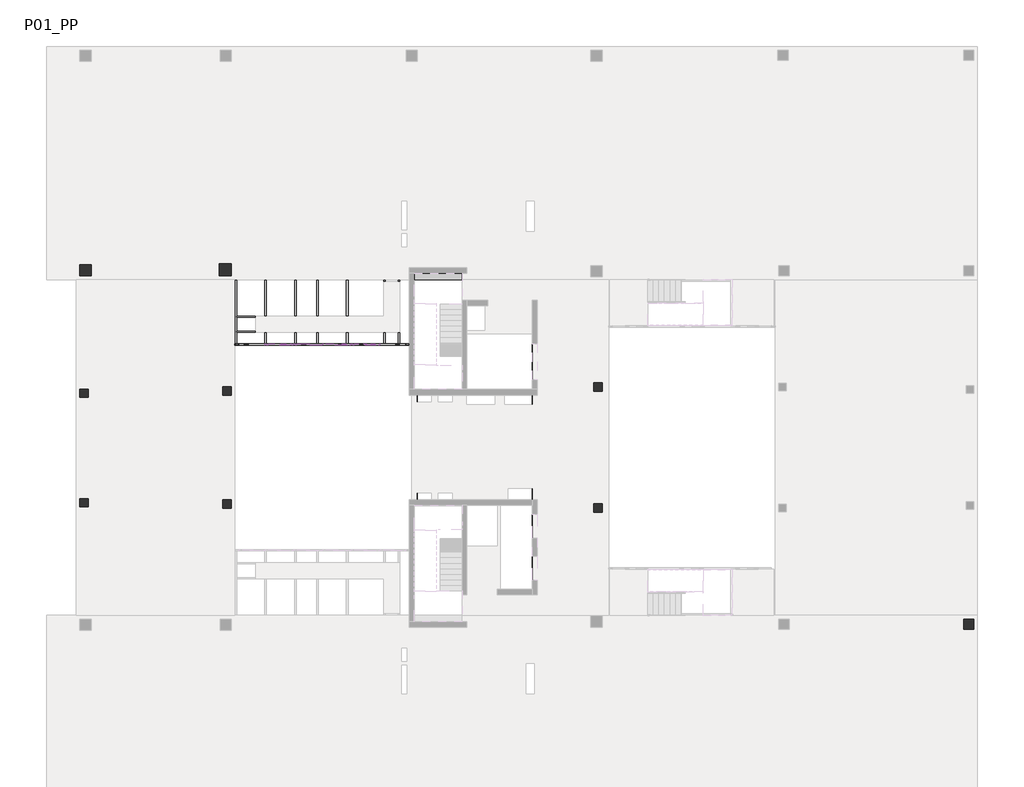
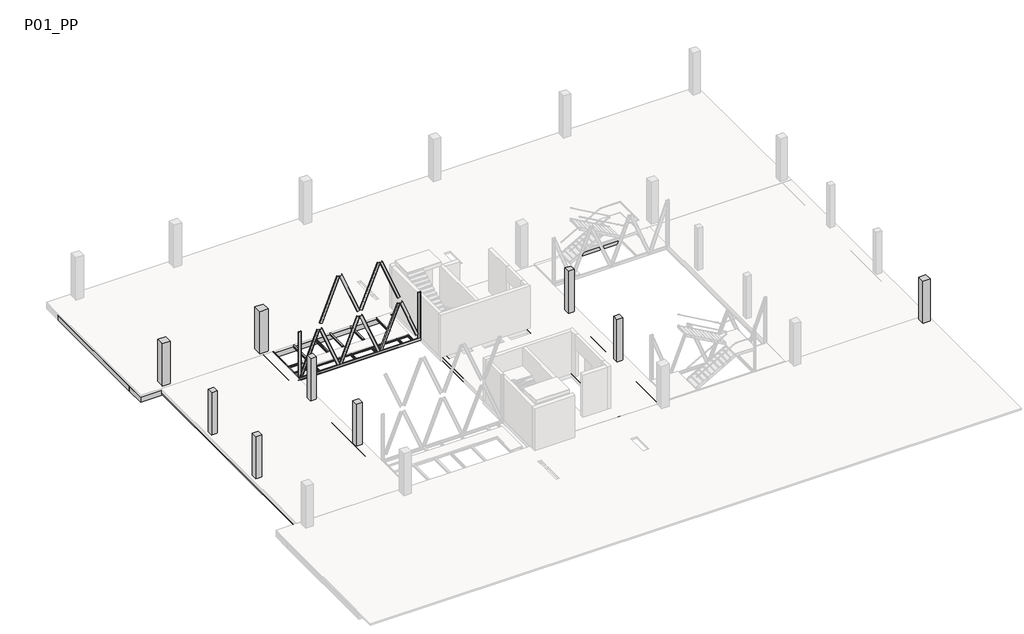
# One storey, part 4 of 8: 37 beams, 11 columns.
"""IFC4 building model written with IfcOpenShell, lengths in millimetres."""

from ifc_helpers import new_model, si_unit, frame, origin, place, context, project, spatial, polyline, circle_curve, outline, extrude, faceted_brep, transform, mapped, element, save
from ifc_brep_helpers import plane_surface, revolved_surface, advanced_brep
from components import ub_universal_beams_ipe_160x82_a4b44378, ub_universal_beams_ipe_160x82_3ea767f5, upn120x55_8ca40f5d, upn120x55_f8c29ef0, upn120x55_6f2391d9, upn120x55_f3862d68, upn120x55_dbb17e30, upn200x75_22e62ea1, upn200x75_5ddb06b6, upn200x75_15f8b11e, upn200x75_ab35ba71, upn200x75_df23aae5, upn200x75_7b6a578c, upn200x75_922ad74a, upn_200x75_fcc0ec56

model = new_model("IFC4")

# Units and contexts
model_context = context("Model", 3, world=origin())
ifc_project = project(units=[si_unit("LENGTHUNIT", "METRE", prefix="MILLI")], contexts=[model_context])

# Site, building, storey
site = spatial("IfcSite", under=ifc_project)
building = spatial("IfcBuilding", under=site)
storey = spatial("IfcBuildingStorey", under=building, Name="P01_PP", Elevation=11160.0)

# Beams
placement = place(None, origin())
element("IfcBeam", 1, ObjectType="M_Concrete-Rectangular Beam : 1500 x 550mm", at=placement, inside=storey, context=model_context, shape_type="AdvancedBrep", body=[
    advanced_brep(
    [(-13390.3216429, 13539.4134441, 11160.0), (-10790.2146087, 13539.4134441, 11160.0), (-10790.2146087, 13864.8960677, 11160.0), (-13390.3216429, 13864.8960677, 11160.0), (15458.7687297, 15039.4134441, 10610.0), (14183.7291255, 15039.4134441, 10610.0), (13783.7291255, 15039.4134441, 10610.0), (12517.0624618, 15039.4134441, 10610.0), (12117.0624618, 15039.4134441, 10610.0), (10850.3957976, 15039.4134441, 10610.0), (10450.3957976, 15039.4134441, 10610.0), (9183.7291339, 15039.4134441, 10610.0), (8783.7291339, 15039.4134441, 10610.0), (7517.0624701, 15039.4134441, 10610.0), (7117.0624701, 15039.4134441, 10610.0), (5850.3958055, 15039.4134441, 10610.0), (5450.3958055, 15039.4134441, 10610.0), (4183.7291418, 15039.4134441, 10610.0), (3783.7291418, 15039.4134441, 10610.0), (2517.0624776, 15039.4134441, 10610.0), (2117.0624776, 15039.4134441, 10610.0), (850.3958139, 15039.4134441, 10610.0), (450.3958139, 15039.4134441, 10610.0), (-816.2708502, 15039.4134441, 10610.0), (-1216.2708502, 15039.4134441, 10610.0), (-2482.9375136, 15039.4134441, 10610.0), (-2882.9375136, 15039.4134441, 10610.0), (-4149.6041777, 15039.4134441, 10610.0), (-4549.6041777, 15039.4134441, 10610.0), (-5816.2708415, 15039.4134441, 10610.0), (-6216.2708415, 15039.4134441, 10610.0), (-7482.9375051, 15039.4134441, 10610.0), (-7882.9375051, 15039.4134441, 10610.0), (-9149.6041702, 15039.4134441, 10610.0), (-9549.6041702, 15039.4134441, 10610.0), (-10816.2708336, 15039.4134441, 10610.0), (-11216.2708336, 15039.4134441, 10610.0), (-12482.9374977, 15039.4134441, 10610.0), (-12882.9374977, 15039.4134441, 10610.0), (-14149.604161, 15039.4134441, 10610.0), (-14549.604161, 15039.4134441, 10610.0), (-15816.2708252, 15039.4134441, 10610.0), (-16216.2708252, 15039.4134441, 10610.0), (-17482.9374898, 15039.4134441, 10610.0), (-17882.9374898, 15039.4134441, 10610.0), (-19149.6041539, 15039.4134441, 10610.0), (-19549.6041539, 15039.4134441, 10610.0), (-20816.2708168, 15039.4134441, 10610.0), (-21216.2708168, 15039.4134441, 10610.0), (-22482.9374805, 15039.4134441, 10610.0), (-22882.9374805, 15039.4134441, 10610.0), (-24149.6041453, 15039.4134441, 10610.0), (-24549.6041453, 15039.4134441, 10610.0), (-25816.2708089, 15039.4134441, 10610.0), (-26216.2708089, 15039.4134441, 10610.0), (-27482.9374731, 15039.4134441, 10610.0), (-27882.9374731, 15039.4134441, 10610.0), (-29149.6041367, 15039.4134441, 10610.0), (-29549.6041367, 15039.4134441, 10610.0), (-30816.2708024, 15039.4134441, 10610.0), (-31216.2708024, 15039.4134441, 10610.0), (-32490.2931093, 15039.4134441, 10610.0), (-33190.2931093, 15039.4134441, 10610.0), (-33190.2931093, 15039.4134441, 11010.0), (-32490.2931093, 15039.4134441, 11010.0), (-31216.2708024, 15039.4134441, 11010.0), (-30816.2708024, 15039.4134441, 11010.0), (-29549.6041367, 15039.4134441, 11010.0), (-29149.6041367, 15039.4134441, 11010.0), (-27882.9374731, 15039.4134441, 11010.0), (-27482.9374731, 15039.4134441, 11010.0), (-26216.2708089, 15039.4134441, 11010.0), (-25816.2708089, 15039.4134441, 11010.0), (-24549.6041453, 15039.4134441, 11010.0), (-24149.6041453, 15039.4134441, 11010.0), (-22882.9374805, 15039.4134441, 11010.0), (-22482.9374805, 15039.4134441, 11010.0), (-21216.2708168, 15039.4134441, 11010.0), (-20816.2708168, 15039.4134441, 11010.0), (-19549.6041539, 15039.4134441, 11010.0), (-19149.6041539, 15039.4134441, 11010.0), (-17882.9374898, 15039.4134441, 11010.0), (-17482.9374898, 15039.4134441, 11010.0), (-16216.2708252, 15039.4134441, 11010.0), (-15816.2708252, 15039.4134441, 11010.0), (-14549.604161, 15039.4134441, 11010.0), (-14149.604161, 15039.4134441, 11010.0), (-12882.9374977, 15039.4134441, 11010.0), (-12482.9374977, 15039.4134441, 11010.0), (-11216.2708336, 15039.4134441, 11010.0), (-10816.2708336, 15039.4134441, 11010.0), (-9549.6041702, 15039.4134441, 11010.0), (-9149.6041702, 15039.4134441, 11010.0), (-7882.9375051, 15039.4134441, 11010.0), (-7482.9375051, 15039.4134441, 11010.0), (-6216.2708415, 15039.4134441, 11010.0), (-5816.2708415, 15039.4134441, 11010.0), (-4549.6041777, 15039.4134441, 11010.0), (-4149.6041777, 15039.4134441, 11010.0), (-2882.9375136, 15039.4134441, 11010.0), (-2482.9375136, 15039.4134441, 11010.0), (-1216.2708502, 15039.4134441, 11010.0), (-816.2708502, 15039.4134441, 11010.0), (450.3958139, 15039.4134441, 11010.0), (850.3958139, 15039.4134441, 11010.0), (2117.0624776, 15039.4134441, 11010.0), (2517.0624776, 15039.4134441, 11010.0), (3783.7291418, 15039.4134441, 11010.0), (4183.7291418, 15039.4134441, 11010.0), (5450.3958055, 15039.4134441, 11010.0), (5850.3958055, 15039.4134441, 11010.0), (7117.0624701, 15039.4134441, 11010.0), (7517.0624701, 15039.4134441, 11010.0), (8783.7291339, 15039.4134441, 11010.0), (9183.7291339, 15039.4134441, 11010.0), (10450.3957976, 15039.4134441, 11010.0), (10850.3957976, 15039.4134441, 11010.0), (12117.0624618, 15039.4134441, 11010.0), (12517.0624618, 15039.4134441, 11010.0), (13783.7291255, 15039.4134441, 11010.0), (14183.7291255, 15039.4134441, 11010.0), (15458.7687297, 15039.4134441, 11010.0), (15458.7687297, 13539.4134441, 10610.0), (-13390.3216429, 13539.4134441, 10610.0), (-13390.3216429, 13864.8960687, 10610.0), (-10540.3248355, 13864.8960687, 10610.0), (-10540.3248355, 14164.8960687, 10610.0), (-13640.3216429, 14164.8960687, 10610.0), (-13640.3216429, 13539.4134441, 10610.0), (-33190.2931093, 13539.4134441, 10610.0), (-23891.1584575, 14389.4137827, 10610.0), (-23891.1584617, 13739.4137827, 10610.0), (-23241.1584617, 13739.4137784, 10610.0), (-23241.1584575, 14389.4137784, 10610.0), (-30741.1998829, 14389.4137882, 10610.0), (-31391.1998829, 14389.4137882, 10610.0), (-31391.199883, 13739.4137882, 10610.0), (-30741.199883, 13739.4137882, 10610.0), (-3566.6084988, 13639.4139752, 10610.0), (-3566.6084988, 14339.4139752, 10610.0), (6859.7220908, 13739.8778721, 10610.0), (6859.7220936, 14339.8778721, 10610.0), (6259.7220936, 14339.8778748, 10610.0), (6259.7220908, 13739.8778748, 10610.0), (-13640.3216429, 13539.4134441, 10860.0), (-13390.3216429, 13539.4134441, 10860.0), (15458.7687297, 13539.4134441, 11010.0), (-10790.2146087, 13539.4134441, 11010.0), (-13390.3216429, 13539.4134441, 11010.0), (-33190.2931093, 13539.4134441, 11010.0), (-23891.1584575, 14389.4137827, 10860.0), (-23891.1584617, 13739.4137827, 10860.0), (-23241.1584575, 14389.4137784, 10860.0), (-23241.1584617, 13739.4137784, 10860.0), (-30741.1998829, 14389.4137882, 10860.0), (-31391.1998829, 14389.4137882, 10860.0), (-30741.199883, 13739.4137882, 10860.0), (-31391.199883, 13739.4137882, 10860.0), (-3566.6084988, 13639.4139752, 10860.0), (-3566.6084988, 14339.4139752, 10860.0), (6859.7220908, 13739.8778721, 10860.0), (6859.7220936, 14339.8778721, 10860.0), (6259.7220908, 13739.8778748, 10860.0), (6259.7220936, 14339.8778748, 10860.0), (-10540.3248355, 14164.8960687, 10860.0), (-13640.3216429, 14164.8960687, 10860.0), (-10540.3248355, 13864.8960687, 10860.0), (-13390.3216429, 13864.8960687, 10860.0), (-13640.3216429, 13864.8960687, 10860.0), (-10790.2146087, 13864.8960677, 11010.0), (-13390.3216429, 13864.8960677, 11010.0)],
    [
        (0, 1),
        (1, 2),
        (2, 3),
        (3, 0),
        (4, 5),
        (5, 6),
        (6, 7),
        (7, 8),
        (8, 9),
        (9, 10),
        (10, 11),
        (11, 12),
        (12, 13),
        (13, 14),
        (14, 15),
        (15, 16),
        (16, 17),
        (17, 18),
        (18, 19),
        (19, 20),
        (20, 21),
        (21, 22),
        (22, 23),
        (23, 24),
        (24, 25),
        (25, 26),
        (26, 27),
        (27, 28),
        (28, 29),
        (29, 30),
        (30, 31),
        (31, 32),
        (32, 33),
        (33, 34),
        (34, 35),
        (35, 36),
        (36, 37),
        (37, 38),
        (38, 39),
        (39, 40),
        (40, 41),
        (41, 42),
        (42, 43),
        (43, 44),
        (44, 45),
        (45, 46),
        (46, 47),
        (47, 48),
        (48, 49),
        (49, 50),
        (50, 51),
        (51, 52),
        (52, 53),
        (53, 54),
        (54, 55),
        (55, 56),
        (56, 57),
        (57, 58),
        (58, 59),
        (59, 60),
        (60, 61),
        (61, 62),
        (62, 63),
        (63, 64),
        (64, 65),
        (65, 66),
        (66, 67),
        (67, 68),
        (68, 69),
        (69, 70),
        (70, 71),
        (71, 72),
        (72, 73),
        (73, 74),
        (74, 75),
        (75, 76),
        (76, 77),
        (77, 78),
        (78, 79),
        (79, 80),
        (80, 81),
        (81, 82),
        (82, 83),
        (83, 84),
        (84, 85),
        (85, 86),
        (86, 87),
        (87, 88),
        (88, 89),
        (89, 90),
        (90, 91),
        (91, 92),
        (92, 93),
        (93, 94),
        (94, 95),
        (95, 96),
        (96, 97),
        (97, 98),
        (98, 99),
        (99, 100),
        (100, 101),
        (101, 102),
        (102, 103),
        (103, 104),
        (104, 105),
        (105, 106),
        (106, 107),
        (107, 108),
        (108, 109),
        (109, 110),
        (110, 111),
        (111, 112),
        (112, 113),
        (113, 114),
        (114, 115),
        (115, 116),
        (116, 117),
        (117, 118),
        (118, 119),
        (119, 120),
        (120, 121),
        (121, 4),
        (4, 122),
        (122, 123),
        (123, 124),
        (124, 125),
        (125, 126),
        (126, 127),
        (127, 128),
        (128, 129),
        (129, 62),
        (130, 131),
        (131, 132),
        (132, 133),
        (133, 130),
        (134, 135),
        (135, 136),
        (136, 137),
        (137, 134),
        (138, 139, circle_curve(frame((-3566.6084988, 13989.4139752, 10610.0), z_axis=(0.0, 0.0, 1.0), x_axis=(0.0, -1.0, 0.0)), 350.0)),
        (139, 138, circle_curve(frame((-3566.6084988, 13989.4139752, 10610.0), z_axis=(0.0, 0.0, 1.0), x_axis=(0.0, -1.0, 0.0)), 350.0)),
        (140, 141),
        (141, 142),
        (142, 143),
        (143, 140),
        (128, 144),
        (144, 145),
        (145, 123),
        (122, 146),
        (146, 147),
        (147, 1),
        (0, 148),
        (148, 149),
        (149, 129),
        (121, 146),
        (150, 151),
        (151, 131),
        (130, 150),
        (152, 150),
        (133, 152),
        (153, 152),
        (132, 153),
        (151, 153),
        (154, 155),
        (155, 135),
        (134, 154),
        (156, 154),
        (137, 156),
        (157, 156),
        (136, 157),
        (155, 157),
        (158, 159, circle_curve(frame((-3566.6084988, 13989.4139752, 10860.0), z_axis=(0.0, 0.0, 1.0), x_axis=(0.0, -1.0, 0.0)), 350.0)),
        (159, 139),
        (138, 158),
        (159, 158, circle_curve(frame((-3566.6084988, 13989.4139752, 10860.0), z_axis=(0.0, 0.0, 1.0), x_axis=(0.0, -1.0, 0.0)), 350.0)),
        (160, 161),
        (161, 141),
        (140, 160),
        (162, 160),
        (143, 162),
        (163, 162),
        (142, 163),
        (161, 163),
        (164, 165),
        (165, 127),
        (126, 164),
        (166, 125),
        (124, 167),
        (167, 166),
        (164, 166),
        (167, 145),
        (144, 168),
        (168, 165),
        (149, 63),
        (169, 147),
        (148, 170),
        (170, 169),
        (170, 3),
        (2, 169),
    ],
    [
        plane_surface(frame((-32477.5931093, 14289.4134441, 11160.0), z_axis=(0.0, 0.0, 1.0), x_axis=(0.0, 1.0, 0.0))),
        plane_surface(frame((-32477.5931093, 15039.4134441, 10885.0), z_axis=(0.0, 1.0, 0.0), x_axis=(0.0, 0.0, -1.0))),
        plane_surface(frame((-32477.5931093, 14289.4134441, 10610.0), z_axis=(0.0, 0.0, -1.0), x_axis=(0.0, -1.0, 0.0))),
        plane_surface(frame((-32477.5931093, 13539.4134441, 10885.0), z_axis=(0.0, -1.0, 0.0), x_axis=(0.0, 0.0, 1.0))),
        plane_surface(frame((15458.7687297, 15052.1134441, 10610.0), z_axis=(1.0, 0.0, 0.0), x_axis=(0.0, 1.0, 0.0))),
        plane_surface(frame((-23891.1584575, 14389.4137827, 10860.0), z_axis=(1.0, -6.473075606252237e-09, 0.0), x_axis=(0.0, 0.0, -1.0))),
        plane_surface(frame((-23241.1584575, 14389.4137784, 10860.0), z_axis=(-6.473075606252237e-09, -1.0, 0.0), x_axis=(0.0, 0.0, -1.0))),
        plane_surface(frame((-23241.1584617, 13739.4137784, 10860.0), z_axis=(-1.0, 6.473075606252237e-09, 0.0), x_axis=(0.0, 0.0, -1.0))),
        plane_surface(frame((-23891.1584617, 13739.4137827, 10860.0), z_axis=(6.473075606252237e-09, 1.0, 0.0), x_axis=(0.0, 0.0, -1.0))),
        plane_surface(frame((-23241.1584617, 13739.4137784, 10860.0), z_axis=(0.0, 0.0, -1.0), x_axis=(1.0, -6.473075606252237e-09, 0.0))),
        plane_surface(frame((-30741.1998829, 14389.4137882, 10860.0), z_axis=(-2.55049295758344e-11, -1.0, 0.0), x_axis=(0.0, 0.0, -1.0))),
        plane_surface(frame((-30741.199883, 13739.4137882, 10860.0), z_axis=(-1.0, 2.55049295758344e-11, 0.0), x_axis=(0.0, 0.0, -1.0))),
        plane_surface(frame((-31391.199883, 13739.4137882, 10860.0), z_axis=(2.55049295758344e-11, 1.0, 0.0), x_axis=(0.0, 0.0, -1.0))),
        plane_surface(frame((-31391.1998829, 14389.4137882, 10860.0), z_axis=(1.0, -2.55049295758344e-11, 0.0), x_axis=(0.0, 0.0, -1.0))),
        plane_surface(frame((-31391.199883, 13739.4137882, 10860.0), z_axis=(0.0, 0.0, -1.0), x_axis=(-2.55049295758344e-11, -1.0, 0.0))),
        revolved_surface(polyline([(-3566.6084988, 13639.4139752, 10860.0), (-3566.6084988, 13639.4139752, 10610.0)]), (-3566.6084988, 13989.4139752, 7100.0), (0.0, 0.0, 1.0)),
        plane_surface(frame((-3566.6084988, 13639.4139752, 10860.0), z_axis=(0.0, 0.0, -1.0), x_axis=(1.0, 0.0, 0.0))),
        plane_surface(frame((6859.7220908, 13739.8778721, 10860.0), z_axis=(-1.0, 4.6224199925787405e-09, 0.0), x_axis=(0.0, 0.0, -1.0))),
        plane_surface(frame((6259.7220908, 13739.8778748, 10860.0), z_axis=(4.6224199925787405e-09, 1.0, 0.0), x_axis=(0.0, 0.0, -1.0))),
        plane_surface(frame((6259.7220936, 14339.8778748, 10860.0), z_axis=(1.0, -4.6224199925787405e-09, 0.0), x_axis=(0.0, 0.0, -1.0))),
        plane_surface(frame((6859.7220936, 14339.8778721, 10860.0), z_axis=(-4.6224199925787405e-09, -1.0, 0.0), x_axis=(0.0, 0.0, -1.0))),
        plane_surface(frame((6259.7220936, 14339.8778748, 10860.0), z_axis=(0.0, 0.0, -1.0), x_axis=(-1.0, 4.6224199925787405e-09, 0.0))),
        plane_surface(frame((-6768.0443807, 14164.8960687, 7100.0), z_axis=(0.0, -1.0, 0.0), x_axis=(-1.0, 0.0, 0.0))),
        plane_surface(frame((-6768.0443807, 13864.8960687, 7100.0), z_axis=(0.0, 1.0, 0.0), x_axis=(1.0, 0.0, 0.0))),
        plane_surface(frame((-13515.3216429, 14164.8960687, 10860.0), z_axis=(0.0, 0.0, -1.0), x_axis=(0.0, -1.0, 0.0))),
        plane_surface(frame((-10540.3248355, 14164.8960687, 10860.0), z_axis=(-1.0, 0.0, 0.0), x_axis=(0.0, -1.0, 0.0))),
        plane_surface(frame((-13640.3216429, 13864.8960675, 7100.0), z_axis=(1.0, 0.0, 0.0), x_axis=(0.0, -1.0, 0.0))),
        plane_surface(frame((-13390.3216429, 13864.8960675, 7100.0), z_axis=(-1.0, 0.0, 0.0), x_axis=(0.0, 1.0, 0.0))),
        plane_surface(frame((-33190.2931093, 15063.3425276, 10610.0), z_axis=(-1.0, 0.0, 0.0), x_axis=(0.0, -1.0, 0.0))),
        plane_surface(frame((-33190.2931093, -4560.5861796, 11010.0), z_axis=(0.0, 0.0, 1.0), x_axis=(0.0, 1.0, 0.0))),
        plane_surface(frame((-10790.2146087, 13864.8960677, 41314.8), z_axis=(0.0, 1.0, 0.0), x_axis=(0.0, 0.0, -1.0))),
        plane_surface(frame((-13390.3216429, 13864.8960677, 41314.8), z_axis=(-1.0, 0.0, 0.0), x_axis=(0.0, 0.0, -1.0))),
        plane_surface(frame((-10790.2146087, 7614.8960673, 41314.8), z_axis=(1.0, 0.0, 0.0), x_axis=(0.0, 0.0, -1.0))),
    ],
    [
        (0, [[1, 2, 3, 4]]),
        (1, [[5, 6, 7, 8, 9, 10, 11, 12, 13, 14, 15, 16, 17, 18, 19, 20, 21, 22, 23, 24, 25, 26, 27, 28, 29, 30, 31, 32, 33, 34, 35, 36, 37, 38, 39, 40, 41, 42, 43, 44, 45, 46, 47, 48, 49, 50, 51, 52, 53, 54, 55, 56, 57, 58, 59, 60, 61, 62, 63, 64, 65, 66, 67, 68, 69, 70, 71, 72, 73, 74, 75, 76, 77, 78, 79, 80, 81, 82, 83, 84, 85, 86, 87, 88, 89, 90, 91, 92, 93, 94, 95, 96, 97, 98, 99, 100, 101, 102, 103, 104, 105, 106, 107, 108, 109, 110, 111, 112, 113, 114, 115, 116, 117, 118, 119, 120, 121, 122]]),
        (2, [[123, 124, 125, 126, 127, 128, 129, 130, 131, -62, -61, -60, -59, -58, -57, -56, -55, -54, -53, -52, -51, -50, -49, -48, -47, -46, -45, -44, -43, -42, -41, -40, -39, -38, -37, -36, -35, -34, -33, -32, -31, -30, -29, -28, -27, -26, -25, -24, -23, -22, -21, -20, -19, -18, -17, -16, -15, -14, -13, -12, -11, -10, -9, -8, -7, -6, -5], [132, 133, 134, 135], [136, 137, 138, 139], [140, 141], [142, 143, 144, 145]]),
        (3, [[146, 147, 148, -124, 149, 150, 151, -1, 152, 153, 154, -130]]),
        (4, [[-123, -122, 155, -149]]),
        (5, [[156, 157, -132, 158]]),
        (6, [[159, -158, -135, 160]]),
        (7, [[161, -160, -134, 162]]),
        (8, [[163, -162, -133, -157]]),
        (9, [[-156, -159, -161, -163]]),
        (10, [[164, 165, -136, 166]]),
        (11, [[167, -166, -139, 168]]),
        (12, [[169, -168, -138, 170]]),
        (13, [[171, -170, -137, -165]]),
        (14, [[-164, -167, -169, -171]]),
        (15, [[172, 173, -140, 174]]),
        (15, [[175, -174, -141, -173]]),
        (16, [[-172, -175]]),
        (17, [[176, 177, -142, 178]]),
        (18, [[179, -178, -145, 180]]),
        (19, [[181, -180, -144, 182]]),
        (20, [[183, -182, -143, -177]]),
        (21, [[-176, -179, -181, -183]]),
        (22, [[184, 185, -128, 186]]),
        (23, [[187, -126, 188, 189]]),
        (24, [[-184, 190, -189, 191, -147, 192, 193]]),
        (25, [[-190, -186, -127, -187]]),
        (26, [[-185, -193, -192, -146, -129]]),
        (27, [[-191, -188, -125, -148]]),
        (28, [[-131, -154, 194, -63]]),
        (29, [[195, -150, -155, -121, -120, -119, -118, -117, -116, -115, -114, -113, -112, -111, -110, -109, -108, -107, -106, -105, -104, -103, -102, -101, -100, -99, -98, -97, -96, -95, -94, -93, -92, -91, -90, -89, -88, -87, -86, -85, -84, -83, -82, -81, -80, -79, -78, -77, -76, -75, -74, -73, -72, -71, -70, -69, -68, -67, -66, -65, -64, -194, -153, 196, 197]]),
        (30, [[-197, 198, -3, 199]]),
        (31, [[-196, -152, -4, -198]]),
        (32, [[-195, -199, -2, -151]]),
    ],
),
])
element("IfcBeam", 2, ObjectType="M_Concrete-Rectangular Beam : 300 x 300mm", at=placement, inside=storey, context=model_context, shape_type="SweptSolid", body=[
    extrude(outline(polyline([(-13515.3216429, 7614.8960673), (-13215.3216429, 7614.8960673), (-13215.3216429, 1364.8960692), (-13515.3216429, 1364.8960692), (-13515.3216429, 7614.8960673)])), frame((0.0, 0.0, 10860.0), z_axis=(0.0, 0.0, 1.0), x_axis=(1.0, 0.0, 0.0)), (0.0, 0.0, 1.0), 300.0),
])
element("IfcBeam", 3, ObjectType="M_Concrete-Rectangular Beam : 300 x 300mm", at=placement, inside=storey, context=model_context, shape_type="Brep", body=[
    faceted_brep([(-7015.3241677, -4560.5861501, 11160.0), (-6715.3241677, -4560.5861501, 11160.0), (-6715.3241677, 13539.4134441, 11160.0), (-7015.3241677, 13539.4134441, 11160.0), (-7015.3241677, 13539.4134441, 11010.0), (-7015.3241677, 13539.4134441, 10860.0), (-7015.3241677, -4560.5861501, 10860.0), (-7015.3241677, -4560.5861501, 11010.0), (-6715.3241677, -4560.5861501, 10860.0), (-6715.3241677, 13539.4134441, 10860.0), (-6715.3241677, -4560.5861501, 11010.0), (-6715.3241677, 13539.4134441, 11010.0)], [[[0, 1, 2, 3]], [[0, 3, 4, 5, 6, 7]], [[8, 6, 5, 9]], [[2, 1, 10, 8, 9, 11]], [[1, 0, 7, 6, 8, 10]], [[3, 2, 11, 9, 5, 4]]]),
])
element("IfcBeam", 4, ObjectType="M_Concrete-Rectangular Beam : 700 x 400mm", at=placement, inside=storey, context=model_context, shape_type="Brep", body=[
    faceted_brep([(-30891.2267916, 13539.4134441, 11160.0), (-31591.2267916, 13539.4134441, 11160.0), (-31591.2267916, -4560.5861501, 11160.0), (-30891.2267916, -4560.5861501, 11160.0), (-31591.2267916, 13539.4134441, 11010.0), (-31591.2267916, 13539.4134441, 10760.0), (-31591.2267916, -4560.5861501, 10760.0), (-31591.2267916, -4560.5861501, 11010.0), (-30891.2267916, 13539.4134441, 10760.0), (-30891.2267916, -4560.5861501, 10760.0), (-30891.2267916, -4560.5861501, 11010.0), (-30891.2267916, 13539.4134441, 11010.0)], [[[0, 1, 2, 3]], [[2, 1, 4, 5, 6, 7]], [[5, 8, 9, 6]], [[0, 3, 10, 9, 8, 11]], [[1, 0, 11, 8, 5, 4]], [[3, 2, 7, 6, 9, 10]]]),
])
element("IfcBeam", 5, ObjectType="M_Concrete-Rectangular Beam : 700 x 400mm", at=placement, inside=storey, context=model_context, shape_type="Brep", body=[
    faceted_brep([(-23041.1819308, 13539.4134441, 11160.0), (-23741.1819308, 13539.4134441, 11160.0), (-23741.1819308, -4560.5861501, 11160.0), (-23041.1819308, -4560.5861501, 11160.0), (-23741.1819308, 13539.4134441, 11010.0), (-23741.1819308, 13539.4134441, 10760.0), (-23741.1819308, -4560.5861501, 10760.0), (-23741.1819308, -4560.5861501, 11010.0), (-23041.1819308, 13539.4134441, 10760.0), (-23041.1819308, -4560.5861501, 10760.0), (-23041.1819308, -4560.5861501, 11010.0), (-23041.1819308, 13539.4134441, 11010.0)], [[[0, 1, 2, 3]], [[2, 1, 4, 5, 6, 7]], [[5, 8, 9, 6]], [[0, 3, 10, 9, 8, 11]], [[1, 0, 11, 8, 5, 4]], [[3, 2, 7, 6, 9, 10]]]),
])
element("IfcBeam", 6, ObjectType="M_Concrete-Rectangular Beam : 700 x 550mm", at=placement, inside=storey, context=model_context, shape_type="SweptSolid", body=[
    extrude(outline(polyline([(-33190.2931093, 24589.4144807), (-32490.2931093, 24589.4144807), (-32490.2931093, 15039.4134441), (-33190.2931093, 15039.4134441), (-33190.2931093, 24589.4144807)])), frame((0.0, 0.0, 10610.0), z_axis=(0.0, 0.0, 1.0), x_axis=(1.0, 0.0, 0.0)), (0.0, 0.0, 1.0), 400.0),
])
element("IfcBeam", 7, ObjectType="M_Concrete-Rectangular Beam : 850 x 300mm", at=placement, inside=storey, context=model_context, shape_type="Brep", body=[
    faceted_brep([(-2913.6343046, 13539.4134441, 11160.0), (-3763.6343046, 13539.4134441, 11160.0), (-3763.6343046, -4560.5861501, 11160.0), (-2913.6343046, -4560.5861501, 11160.0), (-3763.6343046, 13539.4134441, 11010.0), (-3763.6343046, 13539.4134441, 10860.0), (-3763.6343046, -4560.5861501, 10860.0), (-3763.6343046, -4560.5861501, 11010.0), (-2913.6343046, 13539.4134441, 10860.0), (-2913.6343046, -4560.5861501, 10860.0), (-3435.4940632, -4560.5861501, 10860.0), (-3697.7229413, -4560.5861501, 10860.0), (-2913.6343046, -4560.5861501, 11010.0), (-2913.6343046, 13539.4134441, 11010.0)], [[[0, 1, 2, 3]], [[2, 1, 4, 5, 6, 7]], [[5, 8, 9, 10, 11, 6]], [[0, 3, 12, 9, 8, 13]], [[1, 0, 13, 8, 5, 4]], [[3, 2, 7, 6, 11, 10, 9, 12]]]),
])
ub_universal_beams_ipe_160x82_shape = ub_universal_beams_ipe_160x82_a4b44378(model_context)
element("IfcBeam", 8, ObjectType="UB-Universal Beams : IPE 160x82", at=placement, inside=storey, context=model_context, shape_type="MappedRepresentation", body=[
    mapped(ub_universal_beams_ipe_160x82_shape, transform((-14190.4459331, 12171.9464504, 11080.0), x_axis=(0.0, -1.0, 0.0), y_axis=(1.0, 0.0, 0.0), z_axis=(0.0, 0.0, 1.0))),
])
element("IfcBeam", 9, ObjectType="UB-Universal Beams : IPE 160x82", at=placement, inside=storey, context=model_context, shape_type="MappedRepresentation", body=[
    mapped(ub_universal_beams_ipe_160x82_shape, transform((-14990.4459326, 12171.9464378, 11080.0), x_axis=(0.0, -1.0, 0.0), y_axis=(1.0, 0.0, 0.0), z_axis=(0.0, 0.0, 1.0))),
])
element("IfcBeam", 10, ObjectType="UB-Universal Beams : IPE 160x82", at=placement, inside=storey, context=model_context, shape_type="MappedRepresentation", body=[
    mapped(ub_universal_beams_ipe_160x82_shape, transform((-16990.4459316, 12171.9464061, 11080.0), x_axis=(0.0, -1.0, 0.0), y_axis=(1.0, 0.0, 0.0), z_axis=(0.0, 0.0, 1.0))),
])
element("IfcBeam", 11, ObjectType="UB-Universal Beams : IPE 160x82", at=placement, inside=storey, context=model_context, shape_type="MappedRepresentation", body=[
    mapped(ub_universal_beams_ipe_160x82_shape, transform((-18590.4459308, 12171.9463807, 11080.0), x_axis=(0.0, -1.0, 0.0), y_axis=(1.0, 0.0, 0.0), z_axis=(0.0, 0.0, 1.0))),
])
element("IfcBeam", 12, ObjectType="UB-Universal Beams : IPE 160x82", at=placement, inside=storey, context=model_context, shape_type="MappedRepresentation", body=[
    mapped(ub_universal_beams_ipe_160x82_shape, transform((-19790.4459314, 12171.9463617, 11080.0), x_axis=(0.0, -1.0, 0.0), y_axis=(1.0, 0.0, 0.0), z_axis=(0.0, 0.0, 1.0))),
])
element("IfcBeam", 13, ObjectType="UB-Universal Beams : IPE 160x82", at=placement, inside=storey, context=model_context, shape_type="MappedRepresentation", body=[
    mapped(ub_universal_beams_ipe_160x82_shape, transform((-21390.4459306, 12171.9463363, 11080.0), x_axis=(0.0, -1.0, 0.0), y_axis=(1.0, 0.0, 0.0), z_axis=(0.0, 0.0, 1.0))),
])
ub_universal_beams_ipe_160x82_2_shape = ub_universal_beams_ipe_160x82_3ea767f5(model_context)
element("IfcBeam", 14, ObjectType="UB-Universal Beams : IPE 160x82", at=placement, inside=storey, context=model_context, shape_type="MappedRepresentation", body=[
    mapped(ub_universal_beams_ipe_160x82_2_shape, transform((-22991.1860553, 12171.9463109, 11080.0), x_axis=(0.0, -1.0, 0.0), y_axis=(1.0, 0.0, 0.0), z_axis=(0.0, 0.0, 1.0))),
])
upn120x55_shape = upn120x55_8ca40f5d(model_context)
element("IfcBeam", 15, ObjectType="M_MC Shapes : UPN120x55", at=placement, inside=storey, context=model_context, shape_type="MappedRepresentation", body=[
    mapped(upn120x55_shape, transform((-22165.4459321, 11551.9793105, 11100.0), x_axis=(0.9999999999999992, 4.0441290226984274e-08, 0.0), y_axis=(-4.0441290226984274e-08, 0.9999999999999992, 0.0), z_axis=(0.0, 0.0, 1.0))),
])
element("IfcBeam", 16, ObjectType="M_MC Shapes : UPN120x55", at=placement, inside=storey, context=model_context, shape_type="MappedRepresentation", body=[
    mapped(upn120x55_shape, transform((-22165.4459321, 10751.9793096, 11100.0), x_axis=(0.9999999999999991, 4.319865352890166e-08, 0.0), y_axis=(-4.319865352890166e-08, 0.9999999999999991, 0.0), z_axis=(0.0, 0.0, 1.0))),
])
upn120x55_2_shape = upn120x55_f8c29ef0(model_context)
element("IfcBeam", 17, ObjectType="M_MC Shapes : UPN120x55", at=placement, inside=storey, context=model_context, shape_type="MappedRepresentation", body=[
    mapped(upn120x55_2_shape, transform((-20590.445931, 10751.9793776, 11100.0), x_axis=(0.9999999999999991, 4.319865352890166e-08, 0.0), y_axis=(-4.319865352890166e-08, 0.9999999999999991, 0.0), z_axis=(0.0, 0.0, 1.0))),
])
element("IfcBeam", 18, ObjectType="M_MC Shapes : UPN120x55", at=placement, inside=storey, context=model_context, shape_type="MappedRepresentation", body=[
    mapped(upn120x55_2_shape, transform((-17790.4459312, 10751.9794985, 11100.0), x_axis=(0.9999999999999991, 4.319865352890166e-08, 0.0), y_axis=(-4.319865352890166e-08, 0.9999999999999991, 0.0), z_axis=(0.0, 0.0, 1.0))),
])
element("IfcBeam", 19, ObjectType="M_MC Shapes : UPN120x55", at=placement, inside=storey, context=model_context, shape_type="MappedRepresentation", body=[
    mapped(upn120x55_2_shape, transform((-20590.445931, 11551.9793742, 11100.0), x_axis=(0.9999999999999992, 4.0441290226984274e-08, 0.0), y_axis=(-4.0441290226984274e-08, 0.9999999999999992, 0.0), z_axis=(0.0, 0.0, 1.0))),
])
element("IfcBeam", 20, ObjectType="M_MC Shapes : UPN120x55", at=placement, inside=storey, context=model_context, shape_type="MappedRepresentation", body=[
    mapped(upn120x55_2_shape, transform((-17790.4459312, 11551.9794874, 11100.0), x_axis=(0.9999999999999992, 4.0441290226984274e-08, 0.0), y_axis=(-4.0441290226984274e-08, 0.9999999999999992, 0.0), z_axis=(0.0, 0.0, 1.0))),
])
upn120x55_3_shape = upn120x55_6f2391d9(model_context)
element("IfcBeam", 21, ObjectType="M_MC Shapes : UPN120x55", at=placement, inside=storey, context=model_context, shape_type="MappedRepresentation", body=[
    mapped(upn120x55_3_shape, transform((-19190.4459311, 10751.9794381, 11100.0), x_axis=(0.9999999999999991, 4.319865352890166e-08, 0.0), y_axis=(-4.319865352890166e-08, 0.9999999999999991, 0.0), z_axis=(0.0, 0.0, 1.0))),
])
element("IfcBeam", 22, ObjectType="M_MC Shapes : UPN120x55", at=placement, inside=storey, context=model_context, shape_type="MappedRepresentation", body=[
    mapped(upn120x55_3_shape, transform((-19190.4459311, 11551.9794308, 11100.0), x_axis=(0.9999999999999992, 4.0441290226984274e-08, 0.0), y_axis=(-4.0441290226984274e-08, 0.9999999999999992, 0.0), z_axis=(0.0, 0.0, 1.0))),
])
upn120x55_4_shape = upn120x55_f3862d68(model_context)
element("IfcBeam", 23, ObjectType="M_MC Shapes : UPN120x55", at=placement, inside=storey, context=model_context, shape_type="MappedRepresentation", body=[
    mapped(upn120x55_4_shape, transform((-15990.4459321, 10751.9795763, 11100.0), x_axis=(0.9999999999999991, 4.319865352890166e-08, 0.0), y_axis=(-4.319865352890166e-08, 0.9999999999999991, 0.0), z_axis=(0.0, 0.0, 1.0))),
])
element("IfcBeam", 24, ObjectType="M_MC Shapes : UPN120x55", at=placement, inside=storey, context=model_context, shape_type="MappedRepresentation", body=[
    mapped(upn120x55_4_shape, transform((-15990.4459321, 11551.9795602, 11100.0), x_axis=(0.9999999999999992, 4.0441290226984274e-08, 0.0), y_axis=(-4.0441290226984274e-08, 0.9999999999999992, 0.0), z_axis=(0.0, 0.0, 1.0))),
])
upn120x55_5_shape = upn120x55_dbb17e30(model_context)
element("IfcBeam", 25, ObjectType="M_MC Shapes : UPN120x55", at=placement, inside=storey, context=model_context, shape_type="MappedRepresentation", body=[
    mapped(upn120x55_5_shape, transform((-14590.4459328, 11551.9796168, 11100.0), x_axis=(0.9999999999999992, 4.0441290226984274e-08, 0.0), y_axis=(-4.0441290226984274e-08, 0.9999999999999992, 0.0), z_axis=(0.0, 0.0, 1.0))),
])
element("IfcBeam", 26, ObjectType="M_MC Shapes : UPN120x55", at=placement, inside=storey, context=model_context, shape_type="MappedRepresentation", body=[
    mapped(upn120x55_5_shape, transform((-14590.4459328, 10751.9796368, 11100.0), x_axis=(0.9999999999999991, 4.319865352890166e-08, 0.0), y_axis=(-4.319865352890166e-08, 0.9999999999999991, 0.0), z_axis=(0.0, 0.0, 1.0))),
])
upn200x75_shape = upn200x75_22e62ea1(model_context)
element("IfcBeam", 27, ObjectType="M_MC Shapes : UPN200x75", at=placement, inside=storey, context=model_context, shape_type="MappedRepresentation", body=[
    mapped(upn200x75_shape, transform((-14469.7052054, 10001.2791702, 12886.1409985), x_axis=(0.3712989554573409, 1.1791241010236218e-08, -0.9285133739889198), y_axis=(-3.175673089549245e-08, 0.9999999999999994, 0.0), z_axis=(0.9285133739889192, 2.948654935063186e-08, 0.371298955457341))),
])
upn200x75_2_shape = upn200x75_5ddb06b6(model_context)
element("IfcBeam", 28, ObjectType="M_MC Shapes : UPN200x75", at=placement, inside=storey, context=model_context, shape_type="MappedRepresentation", body=[
    mapped(upn200x75_2_shape, transform((-19116.0351339, 10001.2791698, 16722.9889375), x_axis=(-0.3751231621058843, 1.157656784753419e-08, 0.926974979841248), y_axis=(3.086070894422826e-08, 0.9999999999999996, 0.0), z_axis=(-0.926974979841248, 2.86071045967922e-08, -0.37512316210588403))),
])
element("IfcBeam", 29, ObjectType="M_MC Shapes : UPN200x75", at=placement, inside=storey, context=model_context, shape_type="MappedRepresentation", body=[
    mapped(upn200x75_2_shape, transform((-20664.5997567, 10001.2791698, 12897.0114841), x_axis=(0.37512312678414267, 1.1576565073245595e-08, -0.9269749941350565), y_axis=(-3.086070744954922e-08, 0.9999999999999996, 0.0), z_axis=(0.926974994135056, 2.8607104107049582e-08, 0.37512312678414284))),
])
upn200x75_3_shape = upn200x75_15f8b11e(model_context)
element("IfcBeam", 30, ObjectType="M_MC Shapes : UPN200x75", at=placement, inside=storey, context=model_context, shape_type="MappedRepresentation", body=[
    mapped(upn200x75_3_shape, transform((-22208.7675596, 10001.2791702, 12889.3990465), x_axis=(-0.3712989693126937, 1.179124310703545e-08, -0.9285133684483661), y_axis=(-3.175673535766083e-08, -0.9999999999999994, 0.0), z_axis=(-0.9285133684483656, 2.9486553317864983e-08, 0.3712989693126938))),
])
upn200x75_4_shape = upn200x75_ab35ba71(model_context)
element("IfcBeam", 31, ObjectType="M_MC Shapes : UPN200x75", at=placement, inside=storey, context=model_context, shape_type="MappedRepresentation", body=[
    mapped(upn200x75_4_shape, transform((-18453.2517869, 10001.2793219, 11060.0), x_axis=(0.9999999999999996, 3.175670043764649e-08, 0.0), y_axis=(-3.175670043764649e-08, 0.9999999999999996, 0.0), z_axis=(0.0, 0.0, 1.0))),
])
upn200x75_5_shape = upn200x75_df23aae5(model_context)
element("IfcBeam", 32, ObjectType="M_MC Shapes : UPN200x75", at=placement, inside=storey, context=model_context, shape_type="MappedRepresentation", body=[
    mapped(upn200x75_5_shape, transform((-20664.5997567, 10001.2791698, 16722.9887644), x_axis=(0.37512312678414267, 1.1576565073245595e-08, 0.9269749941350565), y_axis=(3.086071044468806e-08, -0.9999999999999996, 0.0), z_axis=(0.926974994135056, 2.860710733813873e-08, -0.37512312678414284))),
])
element("IfcBeam", 33, ObjectType="M_MC Shapes : UPN200x75", at=placement, inside=storey, context=model_context, shape_type="MappedRepresentation", body=[
    mapped(upn200x75_5_shape, transform((-19116.0351339, 10001.2791698, 12897.0113111), x_axis=(-0.3751231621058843, 1.157656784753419e-08, -0.926974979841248), y_axis=(-3.0860711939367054e-08, -0.9999999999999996, 0.0), z_axis=(-0.926974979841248, 2.8607107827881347e-08, 0.37512316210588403))),
])
upn200x75_6_shape = upn200x75_7b6a578c(model_context)
element("IfcBeam", 34, ObjectType="M_MC Shapes : UPN200x75", at=placement, inside=storey, context=model_context, shape_type="MappedRepresentation", body=[
    mapped(upn200x75_6_shape, transform((-16015.3971261, 10001.2791698, 16724.0694042), x_axis=(-0.375016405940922, 1.1573274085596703e-08, 0.9270181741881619), y_axis=(3.086071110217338e-08, 0.9999999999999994, 0.0), z_axis=(-0.9270181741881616, 2.8608439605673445e-08, -0.3750164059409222))),
])
upn200x75_7_shape = upn200x75_922ad74a(model_context)
element("IfcBeam", 35, ObjectType="M_MC Shapes : UPN200x75", at=placement, inside=storey, context=model_context, shape_type="MappedRepresentation", body=[
    mapped(upn200x75_7_shape, transform((-16015.3971261, 10001.2791698, 12895.9308444), x_axis=(-0.375016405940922, 1.1573274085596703e-08, -0.9270181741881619), y_axis=(-3.0860714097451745e-08, -0.9999999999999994, 0.0), z_axis=(-0.9270181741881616, 2.8608442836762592e-08, 0.3750164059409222))),
])
element("IfcBeam", 36, ObjectType="M_MC Shapes : UPN200x75", at=placement, inside=storey, context=model_context, shape_type="MappedRepresentation", body=[
    mapped(upn200x75_7_shape, transform((-17563.519136, 10001.2791698, 16724.0694517), x_axis=(0.3750164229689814, 1.1573272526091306e-08, 0.9270181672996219), y_axis=(3.086071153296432e-08, -0.9999999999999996, 0.0), z_axis=(0.9270181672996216, 2.8608440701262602e-08, -0.37501642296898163))),
])
element("IfcBeam", 37, ObjectType="M_MC Shapes : UPN200x75", at=placement, inside=storey, context=model_context, shape_type="MappedRepresentation", body=[
    mapped(upn200x75_6_shape, transform((-17563.519136, 10001.2791698, 12895.9307969), x_axis=(0.3750164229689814, 1.1573272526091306e-08, -0.9270181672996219), y_axis=(-3.086070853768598e-08, 0.9999999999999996, 0.0), z_axis=(0.9270181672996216, 2.8608437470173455e-08, 0.37501642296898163))),
])

# Columns
element("IfcColumn", 38, ObjectType="Concrete-Rectangular-Column : Pilar_Rectangular-Formigo-450x450", at=placement, inside=storey, context=model_context, shape_type="SweptSolid", body=[
    extrude(outline(polyline([(-3266.6368999, 1464.6019873), (-3266.6368996, 1014.6019873), (-3716.6368996, 1014.601987), (-3716.6368999, 1464.601987), (-3266.6368999, 1464.6019873)])), frame((0.0, 0.0, 11160.0), z_axis=(0.0, 0.0, 1.0), x_axis=(1.0, 0.0, 0.0)), (0.0, 0.0, 1.0), 3450.0),
])
element("IfcColumn", 39, ObjectType="Concrete-Rectangular-Column : Pilar_Rectangular-Formigo-450x450", at=placement, inside=storey, context=model_context, shape_type="SweptSolid", body=[
    extrude(outline(polyline([(-3266.636904, 7964.6019872), (-3266.6369037, 7514.6019872), (-3716.6369037, 7514.6019869), (-3716.636904, 7964.6019869), (-3266.636904, 7964.6019872)])), frame((0.0, 0.0, 11160.0), z_axis=(0.0, 0.0, 1.0), x_axis=(1.0, 0.0, 0.0)), (0.0, 0.0, 1.0), 3450.0),
])
element("IfcColumn", 40, ObjectType="Concrete-Rectangular-Column : Pilar_Rectangular-Formigo-450x450", at=placement, inside=storey, context=model_context, shape_type="Brep", body=[
    faceted_brep([(-23241.1868521, 1664.413637, 11160.0), (-23241.1868518, 1214.413637, 11160.0), (-23691.1868518, 1214.4136367, 11160.0), (-23691.1868521, 1664.4136367, 11160.0), (-23241.1868521, 1664.413637, 14610.0), (-23241.1868518, 1214.413637, 14610.0), (-23241.1868518, 1214.413637, 14510.0), (-23241.1868521, 1664.413637, 14510.0), (-23691.1868518, 1214.4136367, 14610.0), (-23691.1868518, 1214.4136367, 14510.0), (-23691.1868521, 1664.4136367, 14610.0), (-23691.1868521, 1664.4136367, 14510.0)], [[[0, 1, 2, 3]], [[4, 5, 6, 1, 0, 7]], [[5, 8, 9, 2, 1, 6]], [[8, 10, 11, 3, 2, 9]], [[10, 4, 7, 0, 3, 11]], [[4, 10, 8, 5]]]),
])
element("IfcColumn", 41, ObjectType="Concrete-Rectangular-Column : Pilar_Rectangular-Formigo-450x450", at=placement, inside=storey, context=model_context, shape_type="Brep", body=[
    faceted_brep([(-23241.1868571, 7764.4136309, 11160.0), (-23241.1868576, 7314.4136309, 11160.0), (-23691.1868576, 7314.4136315, 11160.0), (-23691.1868571, 7764.4136315, 11160.0), (-23241.1868571, 7764.4136309, 14610.0), (-23241.1868576, 7314.4136309, 14610.0), (-23241.1868576, 7314.4136309, 14510.0), (-23241.1868571, 7764.4136309, 14510.0), (-23691.1868576, 7314.4136315, 14610.0), (-23691.1868576, 7314.4136315, 14510.0), (-23691.1868571, 7764.4136315, 14610.0), (-23691.1868571, 7764.4136315, 14510.0)], [[[0, 1, 2, 3]], [[4, 5, 6, 1, 0, 7]], [[5, 8, 9, 2, 1, 6]], [[8, 10, 11, 3, 2, 9]], [[10, 4, 7, 0, 3, 11]], [[4, 10, 8, 5]]]),
])
element("IfcColumn", 42, ObjectType="Concrete-Rectangular-Column : Pilar_Rectangular-Formigo-650x650", at=placement, inside=storey, context=model_context, shape_type="Brep", body=[
    faceted_brep([(-23241.1868603, 14389.4134411, 11160.0), (-23241.1868618, 13739.4134411, 11160.0), (-23891.1868618, 13739.4134425, 11160.0), (-23891.1868603, 14389.4134425, 11160.0), (-23241.1868603, 14389.4134411, 14610.0), (-23241.1868618, 13739.4134411, 14610.0), (-23241.1868618, 13739.4134411, 14360.0), (-23241.1868603, 14389.4134411, 14360.0), (-23891.1868618, 13739.4134425, 14610.0), (-23891.1868618, 13739.4134425, 14360.0), (-23891.1868603, 14389.4134425, 14610.0), (-23891.1868603, 14389.4134425, 14360.0)], [[[0, 1, 2, 3]], [[4, 5, 6, 1, 0, 7]], [[5, 8, 9, 2, 1, 6]], [[8, 10, 11, 3, 2, 9]], [[10, 4, 7, 0, 3, 11]], [[4, 10, 8, 5]]]),
])
element("IfcColumn", 43, ObjectType="Concrete-Rectangular-Column : Pilar_Rectangular-Formigo-450x450", at=placement, inside=storey, context=model_context, shape_type="Brep", body=[
    faceted_brep([(-30941.2252639, 7639.2339907, 11160.0), (-30941.2252638, 7189.2339907, 11160.0), (-31391.2252638, 7189.2339906, 11160.0), (-31391.2252639, 7639.2339906, 11160.0), (-30941.2252639, 7639.2339907, 14610.0), (-30941.2252638, 7189.2339907, 14610.0), (-30941.2252638, 7189.2339907, 14510.0), (-30941.2252639, 7639.2339907, 14510.0), (-31391.2252638, 7189.2339906, 14610.0), (-31391.2252638, 7189.2339906, 14510.0), (-31391.2252639, 7639.2339906, 14610.0), (-31391.2252639, 7639.2339906, 14510.0)], [[[0, 1, 2, 3]], [[4, 5, 6, 1, 0, 7]], [[5, 8, 9, 2, 1, 6]], [[8, 10, 11, 3, 2, 9]], [[10, 4, 7, 0, 3, 11]], [[4, 10, 8, 5]]]),
])
element("IfcColumn", 44, ObjectType="Concrete-Rectangular-Column : Pilar_Rectangular-Formigo-600x600", at=placement, inside=storey, context=model_context, shape_type="Brep", body=[
    faceted_brep([(-30791.2282819, 14339.4134357, 11160.0), (-30791.2282852, 13739.4134357, 11160.0), (-31391.2282852, 13739.413439, 11160.0), (-31391.2282819, 14339.413439, 11160.0), (-30791.2282819, 14339.4134357, 14610.0), (-30791.2282852, 13739.4134357, 14610.0), (-30791.2282852, 13739.4134357, 14360.0), (-30791.2282819, 14339.4134357, 14360.0), (-31391.2282852, 13739.413439, 14610.0), (-31391.2282852, 13739.413439, 14360.0), (-31391.2282819, 14339.413439, 14610.0), (-31391.2282819, 14339.413439, 14360.0)], [[[0, 1, 2, 3]], [[4, 5, 6, 1, 0, 7]], [[5, 8, 9, 2, 1, 6]], [[8, 10, 11, 3, 2, 9]], [[10, 4, 7, 0, 3, 11]], [[4, 10, 8, 5]]]),
])
element("IfcColumn", 45, ObjectType="Concrete-Rectangular-Column : Pilar_Rectangular-Formigo-450x450", at=placement, inside=storey, context=model_context, shape_type="Brep", body=[
    faceted_brep([(-30941.2254355, 1739.2324928, 11160.0), (-30941.2254349, 1289.2324928, 11160.0), (-31391.2254349, 1289.2324921, 11160.0), (-31391.2254355, 1739.2324921, 11160.0), (-30941.2254355, 1739.2324928, 14610.0), (-30941.2254349, 1289.2324928, 14610.0), (-30941.2254349, 1289.2324928, 14510.0), (-30941.2254355, 1739.2324928, 14510.0), (-31391.2254349, 1289.2324921, 14610.0), (-31391.2254349, 1289.2324921, 14510.0), (-31391.2254355, 1739.2324921, 14610.0), (-31391.2254355, 1739.2324921, 14510.0)], [[[0, 1, 2, 3]], [[4, 5, 6, 1, 0, 7]], [[5, 8, 9, 2, 1, 6]], [[8, 10, 11, 3, 2, 9]], [[10, 4, 7, 0, 3, 11]], [[4, 10, 8, 5]]]),
])
element("IfcColumn", 46, ObjectType="Concrete-Rectangular-Column : Pilar_Rectangular-Formigo-550x550", at=placement, inside=storey, context=model_context, shape_type="Brep", body=[
    faceted_brep([(16757.902471, -4760.6054329, 11160.0), (16757.9024713, -5310.6054329, 11160.0), (16207.9024713, -5310.6054333, 11160.0), (16207.902471, -4760.6054333, 11160.0), (16757.902471, -4760.6054329, 14610.0), (16757.9024713, -5310.6054329, 14610.0), (16757.9024713, -5310.6054329, 14360.0), (16757.902471, -4760.6054329, 14360.0), (16207.9024713, -5310.6054333, 14610.0), (16207.9024713, -5310.6054333, 14360.0), (16207.902471, -4760.6054333, 14610.0), (16207.902471, -4760.6054333, 14360.0)], [[[0, 1, 2, 3]], [[4, 5, 6, 1, 0, 7]], [[5, 8, 9, 2, 1, 6]], [[8, 10, 11, 3, 2, 9]], [[10, 4, 7, 0, 3, 11]], [[4, 10, 8, 5]]]),
])
upn_200x75_shape = upn_200x75_fcc0ec56(model_context)
element("IfcColumn", 47, ObjectType="M_MC Shapes-Column : UPN 200x75", at=placement, inside=storey, context=model_context, shape_type="MappedRepresentation", body=[
    mapped(upn_200x75_shape, transform((-13740.321643, 10016.7789198, 0.0), x_axis=(3.1229579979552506e-08, 0.9999999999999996, 0.0), y_axis=(-0.9999999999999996, 3.1229579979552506e-08, 0.0), z_axis=(0.0, 0.0, 1.0))),
])
element("IfcColumn", 48, ObjectType="M_MC Shapes-Column : UPN 200x75", at=placement, inside=storey, context=model_context, shape_type="MappedRepresentation", body=[
    mapped(upn_200x75_shape, transform((-22940.3175218, 10016.7789198, 0.0), x_axis=(3.1229579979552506e-08, 0.9999999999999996, 0.0), y_axis=(-0.9999999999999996, 3.1229579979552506e-08, 0.0), z_axis=(0.0, 0.0, 1.0))),
])

save(model, "model.ifc")
